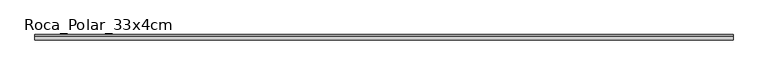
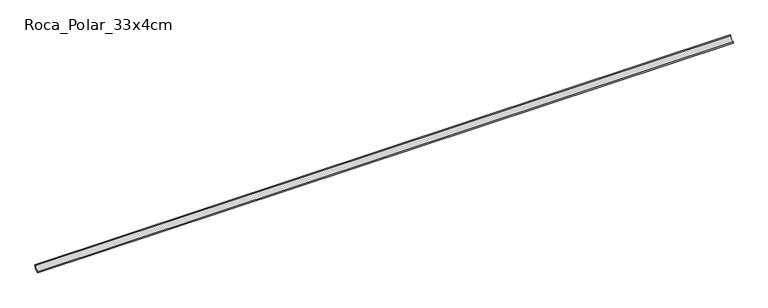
"""IFC4 building model written with IfcOpenShell, lengths in millimetres: proxy geometry, EXAGRES - Half Round Coving : Roca_Polar_33x4cm."""

from ifc_helpers import new_model, si_unit, point, frame, frame_2d, origin, place, context, project, spatial, polyline, circle_curve, trimmed, segment, composite_curve, outline, extrude, source, transform, mapped, element, save


def roca_polar_33x4cm_217610f2(model_context):
    return source(origin(), model_context, "Body", "SweptSolid", [
        extrude(outline(composite_curve([segment(polyline([(0.0, 23.9), (6.4, 23.9)]), True, "CONTINUOUS"), segment(trimmed(circle_curve(frame_2d((-23.9, 23.9)), 30.3), [point((6.4, 23.9))], [point((-23.9, -6.4))], False, "CARTESIAN"), True, "CONTINUOUS"), segment(polyline([(-23.9, -6.4), (-23.9, 0.0)]), True, "CONTINUOUS"), segment(trimmed(circle_curve(frame_2d((-23.9, 23.9)), 23.9), [point((-23.9, 0.0))], [point((0.0, 23.9))], True, "CARTESIAN"), True, "CONTINUOUS")], self_intersect=False)), frame((23.9, 0.0, 0.0), z_axis=(1.0, 0.0, 0.0), x_axis=(0.0, 1.0, 0.0)), (0.0, 0.0, 1.0), 3952.2011128),
    ])


if __name__ == "__main__":
    model = new_model("IFC4")
    model_context = context("Model", 3, world=origin())
    ifc_project = project(units=[si_unit("LENGTHUNIT", "METRE", prefix="MILLI")], contexts=[model_context])
    site = spatial("IfcSite", under=ifc_project)
    building = spatial("IfcBuilding", under=site)
    placement = place(None, origin())
    roca_polar_33x4cm_shape = roca_polar_33x4cm_217610f2(model_context)
    element("IfcBuildingElementProxy", 1, Name="EXAGRES - Half Round Coving : Roca_Polar_33x4cm", ObjectType="EXAGRES - Half Round Coving : Roca_Polar_33x4cm", at=placement, inside=building, context=model_context, shape_type="MappedRepresentation", body=[
        mapped(roca_polar_33x4cm_shape, transform((0.0, 0.0, 0.0), x_axis=(1.0, 0.0, 0.0), y_axis=(0.0, 1.0, 0.0), z_axis=(0.0, 0.0, 1.0))),
    ])
    save(model, "model.ifc")
